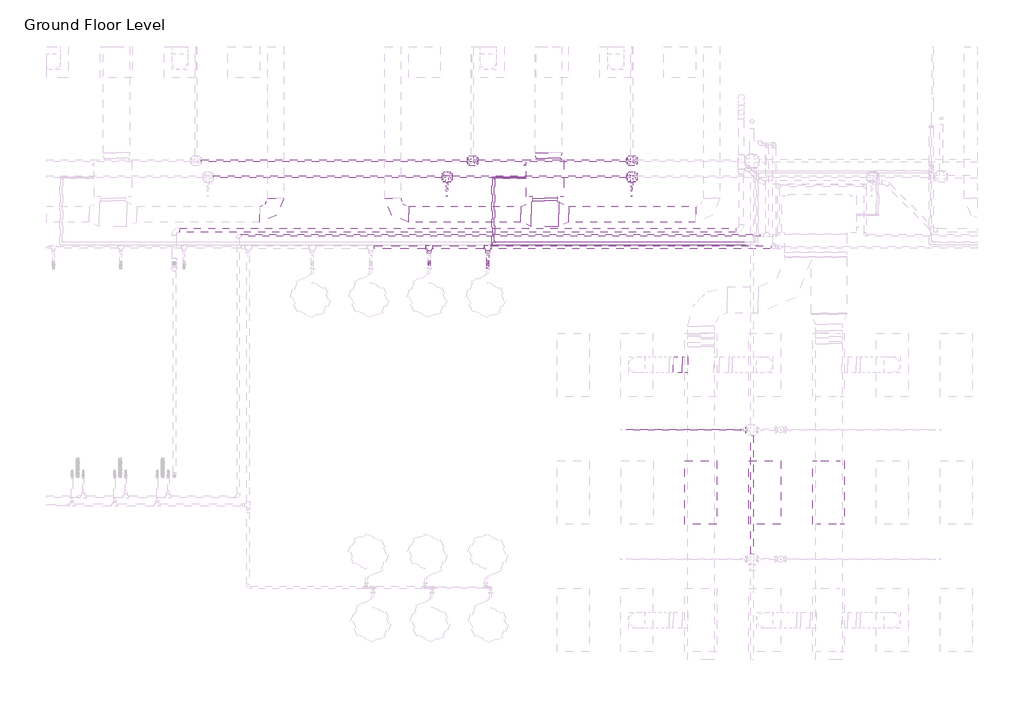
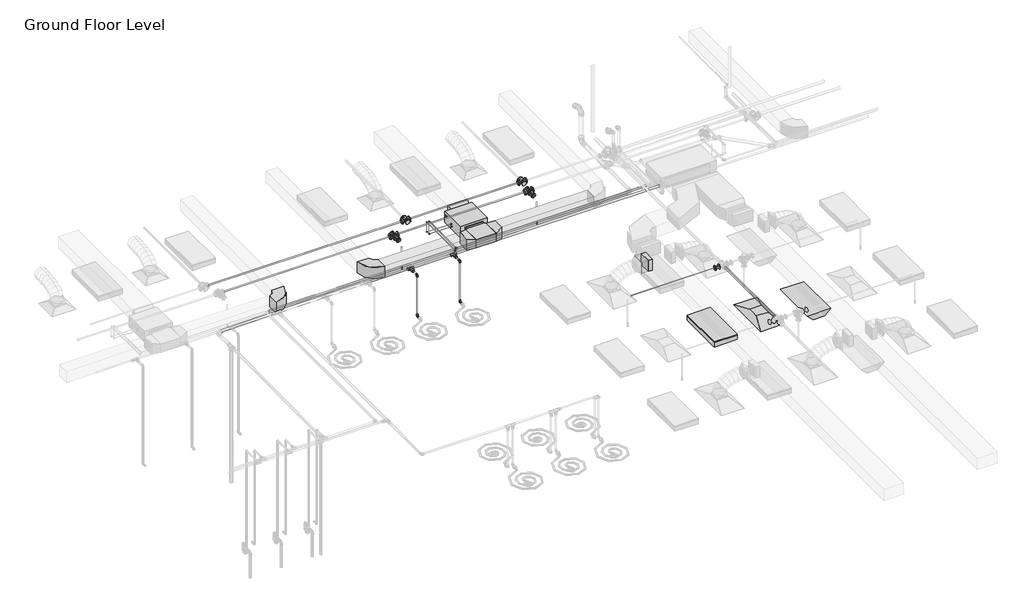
# One storey, part 49 of 75: 27 pipe segments, 21 pipe fittings, 9 duct fittings, 4 duct segments, 2 fire suppression terminals, 2 light fixtures, 1 air terminal, 1 proxy.
"""IFC4 building model written with IfcOpenShell, lengths in millimetres."""

from ifc_helpers import new_model, si_unit, point, frame, frame_2d, origin, place, context, project, spatial, polyline, circle_curve, trimmed, segment, composite_curve, outline, extrude, transform, mapped, element, save
from components import m_return_diffuser_1200x600_1200_x_600_face_300_x_300_d1983ef6, fcu_daikin_iu_bad131e0, m_rectangular_elbow_radius_1_w_618da153, m_rectangular_takeoff_standard_2be5eba1, m_rectangular_tee_standard_fa4de0e8, m_rectangular_transition_angle_45_degree_5a11b24e, m_rectangular_transition_angle_45_degree_27e6000f, m_rectangular_transition_angle_45_degree_1c32c0a1, m_rectangular_transition_angle_45_degree_6e5ad010, m_sprinkler_pendent_15_mm_pendent_06fcbd8e, m_emergency_recessed_lighting_fixture_600x1200_277_5b10b25d, m_troffer_light_parabolic_rectangular1_0600x1200mm_4_lamp_86473d4a, m_elbow_generic_standard_a088f956, m_elbow_generic_standard_2a704253, m_elbow_generic_standard_6b1a80c6, m_elbow_generic_standard_5542be81, m_reducer_flanged_cs_class_150_standard_ccf252ad, m_reducer_flanged_cs_class_150_standard_83138b42, m_tee_generic_standard_5b2ed4d4, m_tee_generic_standard_25a94648, m_tee_round_base_flanged_cs_class_150_standard_7e5987a1, standard_517a5a8d, standard_cd25fed3, standard_f1337950

model = new_model("IFC4")

# Units and contexts
model_context = context("Model", 3, world=origin())
ifc_project = project(units=[si_unit("LENGTHUNIT", "METRE", prefix="MILLI")], contexts=[model_context])

# Site, building, storey
site = spatial("IfcSite", under=ifc_project)
building = spatial("IfcBuilding", under=site)
storey = spatial("IfcBuildingStorey", under=building, Name="Ground Floor Level", Elevation=900.0)

# Air terminal
placement = place(None, origin())
m_return_diffuser_1200x600_1200_x_600_face_300_x_300_shape = m_return_diffuser_1200x600_1200_x_600_face_300_x_300_d1983ef6(model_context)
element("IfcAirTerminal", 1, ObjectType="M_Return Diffuser 1200x600 : 1200 x 600 Face 300 x 300 Connection", at=placement, inside=storey, context=model_context, shape_type="MappedRepresentation", body=[
    mapped(m_return_diffuser_1200x600_1200_x_600_face_300_x_300_shape, transform((-5737.2327605, 8835.2153534, 3650.0), x_axis=(0.0, 1.0, 0.0), y_axis=(-1.0, 0.0, 0.0), z_axis=(0.0, 0.0, 1.0))),
])

# Proxy
fcu_daikin_iu_shape = fcu_daikin_iu_bad131e0(model_context)
element("IfcBuildingElementProxy", 2, Name="FCU-DAIKIN IU : 4.5kW, 230V/50Hz/1Ph", ObjectType="FCU-DAIKIN IU : 4.5kW, 230V/50Hz/1Ph", at=placement, inside=storey, context=model_context, shape_type="MappedRepresentation", body=[
    mapped(fcu_daikin_iu_shape, transform((-9872.2327605, 14745.2153534, 3934.0872564), x_axis=(-1.0, 0.0, 0.0), y_axis=(0.0, -1.0, 0.0), z_axis=(0.0, 0.0, 1.0))),
])

# Duct fittings
m_rectangular_elbow_radius_1_w_shape = m_rectangular_elbow_radius_1_w_618da153(model_context)
element("IfcDuctFitting", 3, ObjectType="M_Rectangular Elbow - Radius : 1 W", at=placement, inside=storey, context=model_context, shape_type="MappedRepresentation", body=[
    mapped(m_rectangular_elbow_radius_1_w_shape, transform((-14937.2327605, 14069.8153534, 4075.2881511), x_axis=(1.0, 0.0, 0.0), y_axis=(0.0, 1.0, 0.0), z_axis=(0.0, 0.0, 1.0))),
])
element("IfcDuctFitting", 4, ObjectType="M_Rectangular Elbow - Radius : 1 W", at=placement, inside=storey, context=model_context, shape_type="MappedRepresentation", body=[
    mapped(m_rectangular_elbow_radius_1_w_shape, transform((-12737.2327605, 14069.8153534, 4075.2872564), x_axis=(0.0, -1.0, 0.0), y_axis=(1.0, 0.0, 0.0), z_axis=(0.0, 0.0, 1.0))),
])
m_rectangular_takeoff_standard_shape = m_rectangular_takeoff_standard_2be5eba1(model_context)
element("IfcDuctFitting", 5, ObjectType="M_Rectangular Takeoff : Standard", at=placement, inside=storey, context=model_context, shape_type="MappedRepresentation", body=[
    mapped(m_rectangular_takeoff_standard_shape, transform((-7189.6910789, 11235.2153534, 4150.0), x_axis=(-1.0, 0.0, 0.0), y_axis=(0.0, 1.0, 0.0), z_axis=(0.0, 0.0, -1.0))),
])
m_rectangular_tee_standard_shape = m_rectangular_tee_standard_fa4de0e8(model_context)
element("IfcDuctFitting", 6, ObjectType="M_Rectangular Tee : Standard", at=placement, inside=storey, context=model_context, shape_type="MappedRepresentation", body=[
    mapped(m_rectangular_tee_standard_shape, transform((-9872.2327605, 14069.8153534, 4075.2872564), x_axis=(-1.0, 0.0, 0.0), y_axis=(0.0, -1.0, 0.0), z_axis=(0.0, 0.0, 1.0))),
])
m_rectangular_transition_angle_45_degree_shape = m_rectangular_transition_angle_45_degree_5a11b24e(model_context)
element("IfcDuctFitting", 7, ObjectType="M_Rectangular Transition - Angle : 45 Degree", at=placement, inside=storey, context=model_context, shape_type="MappedRepresentation", body=[
    mapped(m_rectangular_transition_angle_45_degree_shape, transform((-9808.7327605, 15120.6153534, 4099.9997564), x_axis=(0.0, 1.0, 0.0), y_axis=(-1.0, 0.0, 0.0), z_axis=(0.0, 0.0, 1.0))),
])
m_rectangular_transition_angle_45_degree_2_shape = m_rectangular_transition_angle_45_degree_27e6000f(model_context)
element("IfcDuctFitting", 8, ObjectType="M_Rectangular Transition - Angle : 45 Degree", at=placement, inside=storey, context=model_context, shape_type="MappedRepresentation", body=[
    mapped(m_rectangular_transition_angle_45_degree_2_shape, transform((-9872.2327605, 14369.8153534, 4075.2872564), x_axis=(0.0, -1.0, 0.0), y_axis=(1.0, 0.0, 0.0), z_axis=(0.0, 0.0, 1.0))),
])
m_rectangular_transition_angle_45_degree_3_shape = m_rectangular_transition_angle_45_degree_1c32c0a1(model_context)
element("IfcDuctFitting", 9, ObjectType="M_Rectangular Transition - Angle : 45 Degree", at=placement, inside=storey, context=model_context, shape_type="MappedRepresentation", body=[
    mapped(m_rectangular_transition_angle_45_degree_3_shape, transform((-9872.2327605, 14326.1149854, 4075.2872564), x_axis=(0.0, -1.0, 0.0), y_axis=(1.0, 0.0, 0.0), z_axis=(0.0, 0.0, 1.0))),
])
m_rectangular_transition_angle_45_degree_4_shape = m_rectangular_transition_angle_45_degree_6e5ad010(model_context)
element("IfcDuctFitting", 10, ObjectType="M_Rectangular Transition - Angle : 45 Degree", at=placement, inside=storey, context=model_context, shape_type="MappedRepresentation", body=[
    mapped(m_rectangular_transition_angle_45_degree_4_shape, transform((-10128.1702605, 14069.8153534, 4075.2872564), x_axis=(-1.0, 0.0, 0.0), y_axis=(0.0, -1.0, 0.0), z_axis=(0.0, 0.0, 1.0))),
])
element("IfcDuctFitting", 11, ObjectType="M_Rectangular Transition - Angle : 45 Degree", at=placement, inside=storey, context=model_context, shape_type="MappedRepresentation", body=[
    mapped(m_rectangular_transition_angle_45_degree_4_shape, transform((-9616.2952605, 14069.8153534, 4075.2872564), x_axis=(1.0, 0.0, 0.0), y_axis=(0.0, 1.0, 0.0), z_axis=(0.0, 0.0, 1.0))),
])

# Duct segments
element("IfcDuctSegment", 12, ObjectType="Radius Elbows / Taps", at=placement, inside=storey, context=model_context, shape_type="SweptSolid", body=[
    extrude(outline(polyline([(-9420.8948503, 13919.8153534), (-9420.8948503, 14219.8153534), (-7037.2327605, 14219.8153534), (-7037.2327605, 13919.8153534), (-9420.8948503, 13919.8153534)])), frame((0.0, 0.0, 3925.2872564), z_axis=(0.0, 0.0, 1.0), x_axis=(1.0, 0.0, 0.0)), (0.0, 0.0, 1.0), 300.0),
])
element("IfcDuctSegment", 13, ObjectType="Radius Elbows / Taps", at=placement, inside=storey, context=model_context, shape_type="SweptSolid", body=[
    extrude(outline(polyline([(-12437.2327605, 13919.8153534), (-12437.2327605, 14219.8153534), (-10323.5706707, 14219.8153534), (-10323.5706707, 13919.8153534), (-12437.2327605, 13919.8153534)])), frame((0.0, 0.0, 3925.2872564), z_axis=(0.0, 0.0, 1.0), x_axis=(1.0, 0.0, 0.0)), (0.0, 0.0, 1.0), 300.0),
])
element("IfcDuctSegment", 14, ObjectType="Radius Elbows / Taps", at=placement, inside=storey, context=model_context, shape_type="SweptSolid", body=[
    extrude(outline(polyline([(-10103.2327605, 14369.4532214), (-9641.2327605, 14369.4532214), (-9641.2327605, 14326.1149854), (-10103.2327605, 14326.1149854), (-10103.2327605, 14369.4532214)])), frame((0.0, 0.0, 3968.2872564), z_axis=(0.0, 0.0, 1.0), x_axis=(1.0, 0.0, 0.0)), (0.0, 0.0, 1.0), 214.0),
])
element("IfcDuctSegment", 15, ObjectType="Radius Elbows / Taps", at=placement, inside=storey, context=model_context, shape_type="SweptSolid", body=[
    extrude(outline(polyline([(-7291.2910789, 11385.2153534), (-7291.2910789, 11085.2153534), (-7461.2487616, 11085.2153534), (-7461.2487616, 11385.2153534), (-7291.2910789, 11385.2153534)])), frame((0.0, 0.0, 4000.0), z_axis=(0.0, 0.0, 1.0), x_axis=(1.0, 0.0, 0.0)), (0.0, 0.0, 1.0), 300.0),
])

# Fire suppression terminals
m_sprinkler_pendent_15_mm_pendent_shape = m_sprinkler_pendent_15_mm_pendent_06fcbd8e(model_context)
element("IfcFireSuppressionTerminal", 16, ObjectType="M_Sprinkler - Pendent : 15 mm Pendent", at=placement, inside=storey, context=model_context, shape_type="MappedRepresentation", body=[
    mapped(m_sprinkler_pendent_15_mm_pendent_shape, transform((-11714.286216, 14412.7243649, 3650.0), x_axis=(1.0, 0.0, 0.0), y_axis=(0.0, 1.0, 0.0), z_axis=(0.0, 0.0, 1.0))),
])
element("IfcFireSuppressionTerminal", 17, ObjectType="M_Sprinkler - Pendent : 15 mm Pendent", at=placement, inside=storey, context=model_context, shape_type="MappedRepresentation", body=[
    mapped(m_sprinkler_pendent_15_mm_pendent_shape, transform((-8237.2327605, 14412.7243649, 3650.0), x_axis=(1.0, 0.0, 0.0), y_axis=(0.0, 1.0, 0.0), z_axis=(0.0, 0.0, 1.0))),
])

# Light fixtures
m_emergency_recessed_lighting_fixture_600x1200_277_shape = m_emergency_recessed_lighting_fixture_600x1200_277_5b10b25d(model_context)
element("IfcLightFixture", 18, ObjectType="M_Emergency Recessed Lighting Fixture : 600x1200 - 277", at=placement, inside=storey, context=model_context, shape_type="MappedRepresentation", body=[
    mapped(m_emergency_recessed_lighting_fixture_600x1200_277_shape, transform((-4837.2327605, 8235.2153534, 3650.0), x_axis=(0.0, 1.0, 0.0), y_axis=(-1.0, 0.0, 0.0), z_axis=(0.0, 0.0, 1.0))),
])
m_troffer_light_parabolic_rectangular1_0600x1200mm_4_lamp_shape = m_troffer_light_parabolic_rectangular1_0600x1200mm_4_lamp_86473d4a(model_context)
element("IfcLightFixture", 19, ObjectType="M_Troffer Light - Parabolic Rectangular1 : 0600x1200mm(4 Lamp) - 277V 2", at=placement, inside=storey, context=model_context, shape_type="MappedRepresentation", body=[
    mapped(m_troffer_light_parabolic_rectangular1_0600x1200mm_4_lamp_shape, transform((-6996.6986926, 8853.918855, 3650.0), x_axis=(0.0, 1.0, 0.0), y_axis=(-1.0, 0.0, 0.0), z_axis=(0.0, 0.0, 1.0))),
])

# Pipe fittings
m_elbow_generic_standard_shape = m_elbow_generic_standard_a088f956(model_context)
element("IfcPipeFitting", 20, ObjectType="M_Elbow - Generic : Standard", at=placement, inside=storey, context=model_context, shape_type="MappedRepresentation", body=[
    mapped(m_elbow_generic_standard_shape, transform((-10820.3327605, 14745.2153534, 4380.0), x_axis=(0.0, 0.0, 1.0), y_axis=(0.0, -1.0, 0.0), z_axis=(1.0, 0.0, 0.0))),
])
m_elbow_generic_standard_2_shape = m_elbow_generic_standard_2a704253(model_context)
element("IfcPipeFitting", 21, ObjectType="M_Elbow - Generic : Standard", at=placement, inside=storey, context=model_context, shape_type="MappedRepresentation", body=[
    mapped(m_elbow_generic_standard_2_shape, transform((-10870.0192947, 14770.2153534, 4365.0), x_axis=(0.0, 0.0, 1.0), y_axis=(0.0, -1.0, 0.0), z_axis=(1.0, 0.0, 0.0))),
])
m_elbow_generic_standard_3_shape = m_elbow_generic_standard_6b1a80c6(model_context)
element("IfcPipeFitting", 22, ObjectType="M_Elbow - Generic : Standard", at=placement, inside=storey, context=model_context, shape_type="MappedRepresentation", body=[
    mapped(m_elbow_generic_standard_3_shape, transform((-10820.3359808, 14745.2153534, 4034.0996164), x_axis=(-0.9999999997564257, 0.0, 2.2071440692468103e-05), y_axis=(2.2071440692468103e-05, 0.0, 0.9999999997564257), z_axis=(0.0, 1.0, 0.0))),
])
m_elbow_generic_standard_4_shape = m_elbow_generic_standard_5542be81(model_context)
element("IfcPipeFitting", 23, ObjectType="M_Elbow - Generic : Standard", at=placement, inside=storey, context=model_context, shape_type="MappedRepresentation", body=[
    mapped(m_elbow_generic_standard_4_shape, transform((-10870.0222525, 14770.2153534, 4084.8996164), x_axis=(0.0, 0.0, -1.0), y_axis=(1.0, 0.0, 0.0), z_axis=(0.0, -1.0, 0.0))),
])
m_reducer_flanged_cs_class_150_standard_shape = m_reducer_flanged_cs_class_150_standard_ccf252ad(model_context)
element("IfcPipeFitting", 24, ObjectType="M_Reducer - Flanged - CS - Class 150 : Standard", at=placement, inside=storey, context=model_context, shape_type="MappedRepresentation", body=[
    mapped(m_reducer_flanged_cs_class_150_standard_shape, transform((-11714.286216, 14672.759591, 4291.0943441), x_axis=(0.0, -1.0, 0.0), y_axis=(1.0, 0.0, 0.0), z_axis=(0.0, 0.0, 1.0))),
])
element("IfcPipeFitting", 25, ObjectType="M_Reducer - Flanged - CS - Class 150 : Standard", at=placement, inside=storey, context=model_context, shape_type="MappedRepresentation", body=[
    mapped(m_reducer_flanged_cs_class_150_standard_shape, transform((-8237.2327605, 14672.759591, 4291.0943441), x_axis=(0.0, -1.0, 0.0), y_axis=(1.0, 0.0, 0.0), z_axis=(0.0, 0.0, 1.0))),
])
m_reducer_flanged_cs_class_150_standard_2_shape = m_reducer_flanged_cs_class_150_standard_83138b42(model_context)
element("IfcPipeFitting", 26, ObjectType="M_Reducer - Flanged - CS - Class 150 : Standard", at=placement, inside=storey, context=model_context, shape_type="MappedRepresentation", body=[
    mapped(m_reducer_flanged_cs_class_150_standard_2_shape, transform((-6080.130502, 10013.008259, 4360.0), x_axis=(-1.0, 0.0, 0.0), y_axis=(0.0, 0.0, -1.0), z_axis=(0.0, -1.0, 0.0))),
])
m_tee_generic_standard_shape = m_tee_generic_standard_5b2ed4d4(model_context)
element("IfcPipeFitting", 27, ObjectType="M_Tee - Generic : Standard", at=placement, inside=storey, context=model_context, shape_type="MappedRepresentation", body=[
    mapped(m_tee_generic_standard_shape, transform((-10820.3327605, 13545.2153534, 4380.0), x_axis=(1.0, 0.0, 0.0), y_axis=(0.0, -1.0, 0.0), z_axis=(0.0, 0.0, -1.0))),
])
m_tee_generic_standard_2_shape = m_tee_generic_standard_25a94648(model_context)
element("IfcPipeFitting", 28, ObjectType="M_Tee - Generic : Standard", at=placement, inside=storey, context=model_context, shape_type="MappedRepresentation", body=[
    mapped(m_tee_generic_standard_2_shape, transform((-10870.0192947, 13494.0185138, 4365.0), x_axis=(-1.0, 0.0, 0.0), y_axis=(0.0, -1.0, 0.0), z_axis=(0.0, 0.0, 1.0))),
])
m_tee_round_base_flanged_cs_class_150_standard_shape = m_tee_round_base_flanged_cs_class_150_standard_7e5987a1(model_context)
element("IfcPipeFitting", 29, ObjectType="M_Tee Round Base - Flanged - CS - Class 150 : Standard", at=placement, inside=storey, context=model_context, shape_type="MappedRepresentation", body=[
    mapped(m_tee_round_base_flanged_cs_class_150_standard_shape, transform((-11714.286216, 14773.4681847, 4291.0943441), x_axis=(-1.0, 0.0, 0.0), y_axis=(0.0, 1.0, 0.0), z_axis=(0.0, 0.0, -1.0))),
])
element("IfcPipeFitting", 30, ObjectType="M_Tee Round Base - Flanged - CS - Class 150 : Standard", at=placement, inside=storey, context=model_context, shape_type="MappedRepresentation", body=[
    mapped(m_tee_round_base_flanged_cs_class_150_standard_shape, transform((-8237.2327605, 14773.4681847, 4291.0943441), x_axis=(-1.0, 0.0, 0.0), y_axis=(0.0, 1.0, 0.0), z_axis=(0.0, 0.0, -1.0))),
])
element("IfcPipeFitting", 31, ObjectType="M_Tee Round Base - Flanged - CS - Class 150 : Standard", at=placement, inside=storey, context=model_context, shape_type="MappedRepresentation", body=[
    mapped(m_tee_round_base_flanged_cs_class_150_standard_shape, transform((-11237.2327605, 15073.2009828, 4360.0), x_axis=(-1.0, 0.0, 0.0), y_axis=(0.0, -1.0, 0.0), z_axis=(0.0, 0.0, 1.0))),
])
element("IfcPipeFitting", 32, ObjectType="M_Tee Round Base - Flanged - CS - Class 150 : Standard", at=placement, inside=storey, context=model_context, shape_type="MappedRepresentation", body=[
    mapped(m_tee_round_base_flanged_cs_class_150_standard_shape, transform((-8237.2327605, 15073.2009828, 4360.0), x_axis=(-1.0, 0.0, 0.0), y_axis=(0.0, -1.0, 0.0), z_axis=(0.0, 0.0, 1.0))),
])
standard_shape = standard_517a5a8d(model_context)
element("IfcPipeFitting", 33, ObjectType="M_Elbow - CPVC - Sch 40 : Standard", at=placement, inside=storey, context=model_context, shape_type="MappedRepresentation", body=[
    mapped(standard_shape, transform((-12047.2327605, 13150.8347997, 4315.0), x_axis=(0.0, 0.0, 1.0), y_axis=(0.0, 1.0, 0.0), z_axis=(-1.0, 0.0, 0.0))),
])
element("IfcPipeFitting", 34, ObjectType="M_Elbow - CPVC - Sch 40 : Standard", at=placement, inside=storey, context=model_context, shape_type="MappedRepresentation", body=[
    mapped(standard_shape, transform((-10947.2327605, 13150.8347997, 4315.0), x_axis=(0.0, 0.0, 1.0), y_axis=(0.0, 1.0, 0.0), z_axis=(-1.0, 0.0, 0.0))),
])
element("IfcPipeFitting", 35, ObjectType="M_Elbow - CPVC - Sch 40 : Standard", at=placement, inside=storey, context=model_context, shape_type="MappedRepresentation", body=[
    mapped(standard_shape, transform((-12047.2327605, 13150.8347997, 3200.0), x_axis=(0.0, 0.0, -1.0), y_axis=(0.0, -1.0, 0.0), z_axis=(-1.0, 0.0, 0.0))),
])
element("IfcPipeFitting", 36, ObjectType="M_Elbow - CPVC - Sch 40 : Standard", at=placement, inside=storey, context=model_context, shape_type="MappedRepresentation", body=[
    mapped(standard_shape, transform((-10947.2327605, 13150.8347997, 3200.0), x_axis=(0.0, 0.0, -1.0), y_axis=(0.0, -1.0, 0.0), z_axis=(-1.0, 0.0, 0.0))),
])
standard_2_shape = standard_cd25fed3(model_context)
element("IfcPipeFitting", 37, ObjectType="M_Tee - CPVC - Sch 40 : Standard", at=placement, inside=storey, context=model_context, shape_type="MappedRepresentation", body=[
    mapped(standard_2_shape, transform((-12047.2327605, 13449.9865561, 4315.0), x_axis=(-1.0, 0.0, 0.0), y_axis=(0.0, 1.0, 0.0), z_axis=(0.0, 0.0, -1.0))),
])
element("IfcPipeFitting", 38, ObjectType="M_Tee - CPVC - Sch 40 : Standard", at=placement, inside=storey, context=model_context, shape_type="MappedRepresentation", body=[
    mapped(standard_2_shape, transform((-10947.2327605, 13449.9865561, 4315.0), x_axis=(1.0, 0.0, 0.0), y_axis=(0.0, 1.0, 0.0), z_axis=(0.0, 0.0, 1.0))),
])
standard_3_shape = standard_f1337950(model_context)
element("IfcPipeFitting", 39, ObjectType="M_Coupling Reducing - CPVC - Sch 40 : Standard", at=placement, inside=storey, context=model_context, shape_type="MappedRepresentation", body=[
    mapped(standard_3_shape, transform((-12047.2327605, 13383.3115561, 4315.0), x_axis=(0.0, -1.0, 0.0), y_axis=(1.0, 0.0, 0.0), z_axis=(0.0, 0.0, 1.0))),
])
element("IfcPipeFitting", 40, ObjectType="M_Coupling Reducing - CPVC - Sch 40 : Standard", at=placement, inside=storey, context=model_context, shape_type="MappedRepresentation", body=[
    mapped(standard_3_shape, transform((-10947.2327605, 13383.3115561, 4315.0), x_axis=(0.0, -1.0, 0.0), y_axis=(1.0, 0.0, 0.0), z_axis=(0.0, 0.0, 1.0))),
])

# Pipe segments
element("IfcPipeSegment", 41, ObjectType="CPVC", at=placement, inside=storey, context=model_context, shape_type="SweptSolid", body=[
    extrude(outline(composite_curve([segment(trimmed(circle_curve(frame_2d((-12047.2327605, 13150.8347997)), 16.7005), [point((-12063.9332605, 13150.8347997))], [point((-12047.2327605, 13167.5352997))], False, "CARTESIAN"), True, "CONTINUOUS"), segment(trimmed(circle_curve(frame_2d((-12047.2327605, 13150.8347997)), 16.7005), [point((-12047.2327605, 13167.5352997))], [point((-12030.5322605, 13150.8347997))], False, "CARTESIAN"), True, "CONTINUOUS"), segment(trimmed(circle_curve(frame_2d((-12047.2327605, 13150.8347997)), 16.7005), [point((-12030.5322605, 13150.8347997))], [point((-12047.2327605, 13134.1342997))], False, "CARTESIAN"), True, "CONTINUOUS"), segment(trimmed(circle_curve(frame_2d((-12047.2327605, 13150.8347997)), 16.7005), [point((-12047.2327605, 13134.1342997))], [point((-12063.9332605, 13150.8347997))], False, "CARTESIAN"), True, "CONTINUOUS")], self_intersect=False)), frame((0.0, 0.0, 3243.26255), z_axis=(0.0, 0.0, 1.0), x_axis=(1.0, 0.0, 0.0)), (0.0, 0.0, 1.0), 1028.4749),
])
element("IfcPipeSegment", 42, ObjectType="CPVC", at=placement, inside=storey, context=model_context, shape_type="SweptSolid", body=[
    extrude(outline(composite_curve([segment(trimmed(circle_curve(frame_2d((3200.0, -10947.2327605)), 16.7005), [point((3200.0, -10963.9332605))], [point((3183.2995, -10947.2327605))], False, "CARTESIAN"), True, "CONTINUOUS"), segment(trimmed(circle_curve(frame_2d((3200.0, -10947.2327605)), 16.7005), [point((3183.2995, -10947.2327605))], [point((3200.0, -10930.5322605))], False, "CARTESIAN"), True, "CONTINUOUS"), segment(trimmed(circle_curve(frame_2d((3200.0, -10947.2327605)), 16.7005), [point((3200.0, -10930.5322605))], [point((3216.7005, -10947.2327605))], False, "CARTESIAN"), True, "CONTINUOUS"), segment(trimmed(circle_curve(frame_2d((3200.0, -10947.2327605)), 16.7005), [point((3216.7005, -10947.2327605))], [point((3200.0, -10963.9332605))], False, "CARTESIAN"), True, "CONTINUOUS")], self_intersect=False)), frame((0.0, 13056.8347997, 0.0), z_axis=(0.0, 1.0, 0.0), x_axis=(0.0, 0.0, 1.0)), (0.0, 0.0, 1.0), 50.73745),
])
element("IfcPipeSegment", 43, ObjectType="CPVC", at=placement, inside=storey, context=model_context, shape_type="SweptSolid", body=[
    extrude(outline(composite_curve([segment(trimmed(circle_curve(frame_2d((4315.0, -10947.2327605)), 16.7005), [point((4315.0, -10930.5322605))], [point((4331.7005, -10947.2327605))], False, "CARTESIAN"), True, "CONTINUOUS"), segment(trimmed(circle_curve(frame_2d((4315.0, -10947.2327605)), 16.7005), [point((4331.7005, -10947.2327605))], [point((4315.0, -10963.9332605))], False, "CARTESIAN"), True, "CONTINUOUS"), segment(trimmed(circle_curve(frame_2d((4315.0, -10947.2327605)), 16.7005), [point((4315.0, -10963.9332605))], [point((4298.2995, -10947.2327605))], False, "CARTESIAN"), True, "CONTINUOUS"), segment(trimmed(circle_curve(frame_2d((4315.0, -10947.2327605)), 16.7005), [point((4298.2995, -10947.2327605))], [point((4315.0, -10930.5322605))], False, "CARTESIAN"), True, "CONTINUOUS")], self_intersect=False)), frame((0.0, 13194.0973497, 0.0), z_axis=(0.0, 1.0, 0.0), x_axis=(0.0, 0.0, 1.0)), (0.0, 0.0, 1.0), 109.4153315),
])
element("IfcPipeSegment", 44, ObjectType="CPVC", at=placement, inside=storey, context=model_context, shape_type="SweptSolid", body=[
    extrude(outline(composite_curve([segment(trimmed(circle_curve(frame_2d((-10947.2327605, 13150.8347997)), 16.7005), [point((-10963.9332605, 13150.8347997))], [point((-10947.2327605, 13167.5352997))], False, "CARTESIAN"), True, "CONTINUOUS"), segment(trimmed(circle_curve(frame_2d((-10947.2327605, 13150.8347997)), 16.7005), [point((-10947.2327605, 13167.5352997))], [point((-10930.5322605, 13150.8347997))], False, "CARTESIAN"), True, "CONTINUOUS"), segment(trimmed(circle_curve(frame_2d((-10947.2327605, 13150.8347997)), 16.7005), [point((-10930.5322605, 13150.8347997))], [point((-10947.2327605, 13134.1342997))], False, "CARTESIAN"), True, "CONTINUOUS"), segment(trimmed(circle_curve(frame_2d((-10947.2327605, 13150.8347997)), 16.7005), [point((-10947.2327605, 13134.1342997))], [point((-10963.9332605, 13150.8347997))], False, "CARTESIAN"), True, "CONTINUOUS")], self_intersect=False)), frame((0.0, 0.0, 3243.26255), z_axis=(0.0, 0.0, 1.0), x_axis=(1.0, 0.0, 0.0)), (0.0, 0.0, 1.0), 1028.4749),
])
element("IfcPipeSegment", 45, ObjectType="CPVC", at=placement, inside=storey, context=model_context, shape_type="SweptSolid", body=[
    extrude(outline(composite_curve([segment(trimmed(circle_curve(frame_2d((13449.9865561, 4315.0)), 30.1625), [point((13419.8240561, 4315.0))], [point((13449.9865561, 4345.1625))], False, "CARTESIAN"), True, "CONTINUOUS"), segment(trimmed(circle_curve(frame_2d((13449.9865561, 4315.0)), 30.1625), [point((13449.9865561, 4345.1625))], [point((13480.1490561, 4315.0))], False, "CARTESIAN"), True, "CONTINUOUS"), segment(trimmed(circle_curve(frame_2d((13449.9865561, 4315.0)), 30.1625), [point((13480.1490561, 4315.0))], [point((13449.9865561, 4284.8375))], False, "CARTESIAN"), True, "CONTINUOUS"), segment(trimmed(circle_curve(frame_2d((13449.9865561, 4315.0)), 30.1625), [point((13449.9865561, 4284.8375))], [point((13419.8240561, 4315.0))], False, "CARTESIAN"), True, "CONTINUOUS")], self_intersect=False)), frame((-13080.5577605, 0.0, 0.0), z_axis=(1.0, 0.0, 0.0), x_axis=(0.0, 1.0, 0.0)), (0.0, 0.0, 1.0), 966.65),
])
element("IfcPipeSegment", 46, ObjectType="CPVC", at=placement, inside=storey, context=model_context, shape_type="SweptSolid", body=[
    extrude(outline(composite_curve([segment(trimmed(circle_curve(frame_2d((13449.9865561, 4315.0)), 30.1625), [point((13419.8240561, 4315.0))], [point((13449.9865561, 4345.1625))], False, "CARTESIAN"), True, "CONTINUOUS"), segment(trimmed(circle_curve(frame_2d((13449.9865561, 4315.0)), 30.1625), [point((13449.9865561, 4345.1625))], [point((13480.1490561, 4315.0))], False, "CARTESIAN"), True, "CONTINUOUS"), segment(trimmed(circle_curve(frame_2d((13449.9865561, 4315.0)), 30.1625), [point((13480.1490561, 4315.0))], [point((13449.9865561, 4284.8375))], False, "CARTESIAN"), True, "CONTINUOUS"), segment(trimmed(circle_curve(frame_2d((13449.9865561, 4315.0)), 30.1625), [point((13449.9865561, 4284.8375))], [point((13419.8240561, 4315.0))], False, "CARTESIAN"), True, "CONTINUOUS")], self_intersect=False)), frame((-11980.5577605, 0.0, 0.0), z_axis=(1.0, 0.0, 0.0), x_axis=(0.0, 1.0, 0.0)), (0.0, 0.0, 1.0), 966.65),
])
element("IfcPipeSegment", 47, ObjectType="CPVC", at=placement, inside=storey, context=model_context, shape_type="SweptSolid", body=[
    extrude(outline(composite_curve([segment(trimmed(circle_curve(frame_2d((13675.2153534, 4250.0)), 21.082), [point((13654.1333534, 4250.0))], [point((13675.2153534, 4271.082))], False, "CARTESIAN"), True, "CONTINUOUS"), segment(trimmed(circle_curve(frame_2d((13675.2153534, 4250.0)), 21.082), [point((13675.2153534, 4271.082))], [point((13696.2973534, 4250.0))], False, "CARTESIAN"), True, "CONTINUOUS"), segment(trimmed(circle_curve(frame_2d((13675.2153534, 4250.0)), 21.082), [point((13696.2973534, 4250.0))], [point((13675.2153534, 4228.918))], False, "CARTESIAN"), True, "CONTINUOUS"), segment(trimmed(circle_curve(frame_2d((13675.2153534, 4250.0)), 21.082), [point((13675.2153534, 4228.918))], [point((13654.1333534, 4250.0))], False, "CARTESIAN"), True, "CONTINUOUS")], self_intersect=False)), frame((-15584.8736174, 0.0, 0.0), z_axis=(1.0, 0.0, 0.0), x_axis=(0.0, 1.0, 0.0)), (0.0, 0.0, 1.0), 9750.0786527),
])
element("IfcPipeSegment", 48, ObjectType="CPVC", at=placement, inside=storey, context=model_context, shape_type="SweptSolid", body=[
    extrude(outline(composite_curve([segment(trimmed(circle_curve(frame_2d((13449.9865561, 4315.0)), 30.1625), [point((13419.8240561, 4315.0))], [point((13449.9865561, 4345.1625))], False, "CARTESIAN"), True, "CONTINUOUS"), segment(trimmed(circle_curve(frame_2d((13449.9865561, 4315.0)), 30.1625), [point((13449.9865561, 4345.1625))], [point((13480.1490561, 4315.0))], False, "CARTESIAN"), True, "CONTINUOUS"), segment(trimmed(circle_curve(frame_2d((13449.9865561, 4315.0)), 30.1625), [point((13480.1490561, 4315.0))], [point((13449.9865561, 4284.8375))], False, "CARTESIAN"), True, "CONTINUOUS"), segment(trimmed(circle_curve(frame_2d((13449.9865561, 4315.0)), 30.1625), [point((13449.9865561, 4284.8375))], [point((13419.8240561, 4315.0))], False, "CARTESIAN"), True, "CONTINUOUS")], self_intersect=False)), frame((-10880.5577605, 0.0, 0.0), z_axis=(1.0, 0.0, 0.0), x_axis=(0.0, 1.0, 0.0)), (0.0, 0.0, 1.0), 5253.0113849),
])
element("IfcPipeSegment", 49, ObjectType="Copper", at=placement, inside=storey, context=model_context, shape_type="SweptSolid", body=[
    extrude(outline(composite_curve([segment(trimmed(circle_curve(frame_2d((0.0, -3.35)), 3.35), [point((-3.35, -3.35))], [point((0.0, 0.0))], False, "CARTESIAN"), True, "CONTINUOUS"), segment(trimmed(circle_curve(frame_2d((0.0, -3.35)), 3.35), [point((0.0, 0.0))], [point((3.35, -3.35))], False, "CARTESIAN"), True, "CONTINUOUS"), segment(trimmed(circle_curve(frame_2d((0.0, -3.35)), 3.35), [point((3.35, -3.35))], [point((0.0, -6.7))], False, "CARTESIAN"), True, "CONTINUOUS"), segment(trimmed(circle_curve(frame_2d((0.0, -3.35)), 3.35), [point((0.0, -6.7))], [point((-3.35, -3.35))], False, "CARTESIAN"), True, "CONTINUOUS")], self_intersect=False)), frame((-10260.3328284, 14770.2153534, 4081.5372564), z_axis=(-0.9999999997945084, 0.0, 2.0272724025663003e-05), x_axis=(0.0, 1.0, 0.0)), (0.0, 0.0, 1.0), 598.5522179),
])
element("IfcPipeSegment", 50, ObjectType="Copper", at=placement, inside=storey, context=model_context, shape_type="SweptSolid", body=[
    extrude(outline(composite_curve([segment(trimmed(circle_curve(frame_2d((4365.0, -10870.0192947)), 3.35), [point((4365.0, -10873.3692947))], [point((4361.65, -10870.0192947))], False, "CARTESIAN"), True, "CONTINUOUS"), segment(trimmed(circle_curve(frame_2d((4365.0, -10870.0192947)), 3.35), [point((4361.65, -10870.0192947))], [point((4365.0, -10866.6692947))], False, "CARTESIAN"), True, "CONTINUOUS"), segment(trimmed(circle_curve(frame_2d((4365.0, -10870.0192947)), 3.35), [point((4365.0, -10866.6692947))], [point((4368.35, -10870.0192947))], False, "CARTESIAN"), True, "CONTINUOUS"), segment(trimmed(circle_curve(frame_2d((4365.0, -10870.0192947)), 3.35), [point((4368.35, -10870.0192947))], [point((4365.0, -10873.3692947))], False, "CARTESIAN"), True, "CONTINUOUS")], self_intersect=False)), frame((0.0, 13511.5060138, 0.0), z_axis=(0.0, 1.0, 0.0), x_axis=(0.0, 0.0, 1.0)), (0.0, 0.0, 1.0), 1247.5718396),
])
element("IfcPipeSegment", 51, ObjectType="Copper", at=placement, inside=storey, context=model_context, shape_type="SweptSolid", body=[
    extrude(outline(composite_curve([segment(trimmed(circle_curve(frame_2d((0.0, -3.35)), 3.35), [point((-3.35, -3.35))], [point((0.0, 0.0))], False, "CARTESIAN"), True, "CONTINUOUS"), segment(trimmed(circle_curve(frame_2d((0.0, -3.35)), 3.35), [point((0.0, 0.0))], [point((3.35, -3.35))], False, "CARTESIAN"), True, "CONTINUOUS"), segment(trimmed(circle_curve(frame_2d((0.0, -3.35)), 3.35), [point((3.35, -3.35))], [point((0.0, -6.7))], False, "CARTESIAN"), True, "CONTINUOUS"), segment(trimmed(circle_curve(frame_2d((0.0, -3.35)), 3.35), [point((0.0, -6.7))], [point((-3.35, -3.35))], False, "CARTESIAN"), True, "CONTINUOUS")], self_intersect=False)), frame((-10870.0222525, 14766.8653534, 4096.0368906), z_axis=(1.1472088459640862e-05, 0.0, 0.9999999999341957), x_axis=(-0.9999999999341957, 0.0, 1.1472088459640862e-05)), (0.0, 0.0, 1.0), 257.8256094),
])
element("IfcPipeSegment", 52, ObjectType="Copper", at=placement, inside=storey, context=model_context, shape_type="SweptSolid", body=[
    extrude(outline(composite_curve([segment(trimmed(circle_curve(frame_2d((0.0, 6.5)), 6.5), [point((-6.5, 6.5))], [point((0.0, 13.0))], False, "CARTESIAN"), True, "CONTINUOUS"), segment(trimmed(circle_curve(frame_2d((0.0, 6.5)), 6.5), [point((0.0, 13.0))], [point((6.5, 6.5))], False, "CARTESIAN"), True, "CONTINUOUS"), segment(trimmed(circle_curve(frame_2d((0.0, 6.5)), 6.5), [point((6.5, 6.5))], [point((0.0, 0.0))], False, "CARTESIAN"), True, "CONTINUOUS"), segment(trimmed(circle_curve(frame_2d((0.0, 6.5)), 6.5), [point((0.0, 0.0))], [point((-6.5, 6.5))], False, "CARTESIAN"), True, "CONTINUOUS")], self_intersect=False)), frame((-10260.332904, 14745.2153534, 4027.5872564), z_axis=(-0.9999999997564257, 0.0, 2.2071440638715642e-05), x_axis=(0.0, -1.0, 0.0)), (0.0, 0.0, 1.0), 545.7160357),
])
element("IfcPipeSegment", 53, ObjectType="Copper", at=placement, inside=storey, context=model_context, shape_type="SweptSolid", body=[
    extrude(outline(composite_curve([segment(trimmed(circle_curve(frame_2d((0.0, 6.5)), 6.5), [point((-6.4999999, 6.5))], [point((0.0, 13.0))], False, "CARTESIAN"), True, "CONTINUOUS"), segment(trimmed(circle_curve(frame_2d((0.0, 6.5)), 6.5), [point((0.0, 13.0))], [point((6.5, 6.5))], False, "CARTESIAN"), True, "CONTINUOUS"), segment(trimmed(circle_curve(frame_2d((0.0, 6.5)), 6.5), [point((6.5, 6.5))], [point((0.0, 0.0))], False, "CARTESIAN"), True, "CONTINUOUS"), segment(trimmed(circle_curve(frame_2d((0.0, 6.5)), 6.5), [point((0.0, 0.0))], [point((-6.4999999, 6.5))], False, "CARTESIAN"), True, "CONTINUOUS")], self_intersect=False)), frame((-10820.3359808, 14738.7153534, 4048.3868011), z_axis=(1.0148033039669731e-05, 0.0, 0.9999999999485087), x_axis=(0.9999999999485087, 0.0, -1.0148033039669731e-05)), (0.0, 0.0, 1.0), 317.3256989),
])
element("IfcPipeSegment", 54, ObjectType="Copper", at=placement, inside=storey, context=model_context, shape_type="SweptSolid", body=[
    extrude(outline(composite_curve([segment(trimmed(circle_curve(frame_2d((4380.0, -10820.3327605)), 6.5), [point((4380.0, -10826.8327605))], [point((4373.5, -10820.3327605))], False, "CARTESIAN"), True, "CONTINUOUS"), segment(trimmed(circle_curve(frame_2d((4380.0, -10820.3327605)), 6.5), [point((4373.5, -10820.3327605))], [point((4380.0, -10813.8327605))], False, "CARTESIAN"), True, "CONTINUOUS"), segment(trimmed(circle_curve(frame_2d((4380.0, -10820.3327605)), 6.5), [point((4380.0, -10813.8327605))], [point((4386.5, -10820.3327605))], False, "CARTESIAN"), True, "CONTINUOUS"), segment(trimmed(circle_curve(frame_2d((4380.0, -10820.3327605)), 6.5), [point((4386.5, -10820.3327605))], [point((4380.0, -10826.8327605))], False, "CARTESIAN"), True, "CONTINUOUS")], self_intersect=False)), frame((0.0, 13565.8528534, 0.0), z_axis=(0.0, 1.0, 0.0), x_axis=(0.0, 0.0, 1.0)), (0.0, 0.0, 1.0), 1165.075),
])
element("IfcPipeSegment", 55, ObjectType="Copper", at=placement, inside=storey, context=model_context, shape_type="SweptSolid", body=[
    extrude(outline(composite_curve([segment(trimmed(circle_curve(frame_2d((13545.2153534, 4380.0)), 6.5), [point((13538.7153534, 4380.0))], [point((13545.2153534, 4386.5))], False, "CARTESIAN"), True, "CONTINUOUS"), segment(trimmed(circle_curve(frame_2d((13545.2153534, 4380.0)), 6.5), [point((13545.2153534, 4386.5))], [point((13551.7153534, 4380.0))], False, "CARTESIAN"), True, "CONTINUOUS"), segment(trimmed(circle_curve(frame_2d((13545.2153534, 4380.0)), 6.5), [point((13551.7153534, 4380.0))], [point((13545.2153534, 4373.5))], False, "CARTESIAN"), True, "CONTINUOUS"), segment(trimmed(circle_curve(frame_2d((13545.2153534, 4380.0)), 6.5), [point((13545.2153534, 4373.5))], [point((13538.7153534, 4380.0))], False, "CARTESIAN"), True, "CONTINUOUS")], self_intersect=False)), frame((-10799.6952605, 0.0, 0.0), z_axis=(1.0, 0.0, 0.0), x_axis=(0.0, 1.0, 0.0)), (0.0, 0.0, 1.0), 4693.638441),
])
element("IfcPipeSegment", 56, ObjectType="Copper", at=placement, inside=storey, context=model_context, shape_type="SweptSolid", body=[
    extrude(outline(composite_curve([segment(trimmed(circle_curve(frame_2d((13494.0185138, 4365.0)), 3.35), [point((13490.6685138, 4365.0))], [point((13494.0185138, 4368.35))], False, "CARTESIAN"), True, "CONTINUOUS"), segment(trimmed(circle_curve(frame_2d((13494.0185138, 4365.0)), 3.35), [point((13494.0185138, 4368.35))], [point((13497.3685138, 4365.0))], False, "CARTESIAN"), True, "CONTINUOUS"), segment(trimmed(circle_curve(frame_2d((13494.0185138, 4365.0)), 3.35), [point((13497.3685138, 4365.0))], [point((13494.0185138, 4361.65))], False, "CARTESIAN"), True, "CONTINUOUS"), segment(trimmed(circle_curve(frame_2d((13494.0185138, 4365.0)), 3.35), [point((13494.0185138, 4361.65))], [point((13490.6685138, 4365.0))], False, "CARTESIAN"), True, "CONTINUOUS")], self_intersect=False)), frame((-10852.5317947, 0.0, 0.0), z_axis=(1.0, 0.0, 0.0), x_axis=(0.0, 1.0, 0.0)), (0.0, 0.0, 1.0), 4777.0536918),
])
element("IfcPipeSegment", 57, ObjectType="PVC - DWV", at=placement, inside=storey, context=model_context, shape_type="SweptSolid", body=[
    extrude(outline(composite_curve([segment(trimmed(circle_curve(frame_2d((0.0, 36.5125)), 36.5125), [point((0.0, 0.0))], [point((-36.5125, 36.5125))], False, "CARTESIAN"), True, "CONTINUOUS"), segment(trimmed(circle_curve(frame_2d((0.0, 36.5125)), 36.5125), [point((-36.5125, 36.5125))], [point((0.0, 73.025))], False, "CARTESIAN"), True, "CONTINUOUS"), segment(trimmed(circle_curve(frame_2d((0.0, 36.5125)), 36.5125), [point((0.0, 73.025))], [point((36.5125, 36.5125))], False, "CARTESIAN"), True, "CONTINUOUS"), segment(trimmed(circle_curve(frame_2d((0.0, 36.5125)), 36.5125), [point((36.5125, 36.5125))], [point((0.0, 0.0))], False, "CARTESIAN"), True, "CONTINUOUS")], self_intersect=False)), frame((-16745.3067515, 13732.2923932, 4051.2669274), z_axis=(0.9999500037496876, 0.0, 0.00999950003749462), x_axis=(0.00999950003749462, 0.0, -0.9999500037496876)), (0.0, 0.0, 1.0), 10467.6468574),
])
element("IfcPipeSegment", 58, ObjectType="Steel flanged", at=placement, inside=storey, context=model_context, shape_type="SweptSolid", body=[
    extrude(outline(composite_curve([segment(trimmed(circle_curve(frame_2d((-11714.286216, 14412.7243649)), 10.668), [point((-11724.954216, 14412.7243649))], [point((-11714.286216, 14423.3923649))], False, "CARTESIAN"), True, "CONTINUOUS"), segment(trimmed(circle_curve(frame_2d((-11714.286216, 14412.7243649)), 10.668), [point((-11714.286216, 14423.3923649))], [point((-11703.618216, 14412.7243649))], False, "CARTESIAN"), True, "CONTINUOUS"), segment(trimmed(circle_curve(frame_2d((-11714.286216, 14412.7243649)), 10.668), [point((-11703.618216, 14412.7243649))], [point((-11714.286216, 14402.0563649))], False, "CARTESIAN"), True, "CONTINUOUS"), segment(trimmed(circle_curve(frame_2d((-11714.286216, 14412.7243649)), 10.668), [point((-11714.286216, 14402.0563649))], [point((-11724.954216, 14412.7243649))], False, "CARTESIAN"), True, "CONTINUOUS")], self_intersect=False)), frame((0.0, 0.0, 3650.0), z_axis=(0.0, 0.0, 1.0), x_axis=(1.0, 0.0, 0.0)), (0.0, 0.0, 1.0), 548.2668816),
])
element("IfcPipeSegment", 59, ObjectType="Steel flanged", at=placement, inside=storey, context=model_context, shape_type="SweptSolid", body=[
    extrude(outline(composite_curve([segment(trimmed(circle_curve(frame_2d((4291.0943441, -11714.286216)), 10.668), [point((4291.0943441, -11703.618216))], [point((4301.7623441, -11714.286216))], False, "CARTESIAN"), True, "CONTINUOUS"), segment(trimmed(circle_curve(frame_2d((4291.0943441, -11714.286216)), 10.668), [point((4301.7623441, -11714.286216))], [point((4291.0943441, -11724.954216))], False, "CARTESIAN"), True, "CONTINUOUS"), segment(trimmed(circle_curve(frame_2d((4291.0943441, -11714.286216)), 10.668), [point((4291.0943441, -11724.954216))], [point((4280.4263441, -11714.286216))], False, "CARTESIAN"), True, "CONTINUOUS"), segment(trimmed(circle_curve(frame_2d((4291.0943441, -11714.286216)), 10.668), [point((4280.4263441, -11714.286216))], [point((4291.0943441, -11703.618216))], False, "CARTESIAN"), True, "CONTINUOUS")], self_intersect=False)), frame((0.0, 14505.7329586, 0.0), z_axis=(0.0, 1.0, 0.0), x_axis=(0.0, 0.0, 1.0)), (0.0, 0.0, 1.0), 53.0266324),
])
element("IfcPipeSegment", 60, ObjectType="Steel flanged", at=placement, inside=storey, context=model_context, shape_type="SweptSolid", body=[
    extrude(outline(composite_curve([segment(trimmed(circle_curve(frame_2d((14773.4681847, 4291.0943441)), 16.7005), [point((14756.7676847, 4291.0943441))], [point((14773.4681847, 4307.7948441))], False, "CARTESIAN"), True, "CONTINUOUS"), segment(trimmed(circle_curve(frame_2d((14773.4681847, 4291.0943441)), 16.7005), [point((14773.4681847, 4307.7948441))], [point((14790.1686847, 4291.0943441))], False, "CARTESIAN"), True, "CONTINUOUS"), segment(trimmed(circle_curve(frame_2d((14773.4681847, 4291.0943441)), 16.7005), [point((14790.1686847, 4291.0943441))], [point((14773.4681847, 4274.3938441))], False, "CARTESIAN"), True, "CONTINUOUS"), segment(trimmed(circle_curve(frame_2d((14773.4681847, 4291.0943441)), 16.7005), [point((14773.4681847, 4274.3938441))], [point((14756.7676847, 4291.0943441))], False, "CARTESIAN"), True, "CONTINUOUS")], self_intersect=False)), frame((-16109.4052562, 0.0, 0.0), z_axis=(1.0, 0.0, 0.0), x_axis=(0.0, 1.0, 0.0)), (0.0, 0.0, 1.0), 4294.4104464),
])
element("IfcPipeSegment", 61, ObjectType="Steel flanged", at=placement, inside=storey, context=model_context, shape_type="SweptSolid", body=[
    extrude(outline(composite_curve([segment(trimmed(circle_curve(frame_2d((-8237.2327605, 14412.7243649)), 10.668), [point((-8247.9007605, 14412.7243649))], [point((-8237.2327605, 14423.3923649))], False, "CARTESIAN"), True, "CONTINUOUS"), segment(trimmed(circle_curve(frame_2d((-8237.2327605, 14412.7243649)), 10.668), [point((-8237.2327605, 14423.3923649))], [point((-8226.5647605, 14412.7243649))], False, "CARTESIAN"), True, "CONTINUOUS"), segment(trimmed(circle_curve(frame_2d((-8237.2327605, 14412.7243649)), 10.668), [point((-8226.5647605, 14412.7243649))], [point((-8237.2327605, 14402.0563649))], False, "CARTESIAN"), True, "CONTINUOUS"), segment(trimmed(circle_curve(frame_2d((-8237.2327605, 14412.7243649)), 10.668), [point((-8237.2327605, 14402.0563649))], [point((-8247.9007605, 14412.7243649))], False, "CARTESIAN"), True, "CONTINUOUS")], self_intersect=False)), frame((0.0, 0.0, 3650.0), z_axis=(0.0, 0.0, 1.0), x_axis=(1.0, 0.0, 0.0)), (0.0, 0.0, 1.0), 548.2668816),
])
element("IfcPipeSegment", 62, ObjectType="Steel flanged", at=placement, inside=storey, context=model_context, shape_type="SweptSolid", body=[
    extrude(outline(composite_curve([segment(trimmed(circle_curve(frame_2d((4291.0943441, -8237.2327605)), 10.668), [point((4291.0943441, -8226.5647605))], [point((4301.7623441, -8237.2327605))], False, "CARTESIAN"), True, "CONTINUOUS"), segment(trimmed(circle_curve(frame_2d((4291.0943441, -8237.2327605)), 10.668), [point((4301.7623441, -8237.2327605))], [point((4291.0943441, -8247.9007605))], False, "CARTESIAN"), True, "CONTINUOUS"), segment(trimmed(circle_curve(frame_2d((4291.0943441, -8237.2327605)), 10.668), [point((4291.0943441, -8247.9007605))], [point((4280.4263441, -8237.2327605))], False, "CARTESIAN"), True, "CONTINUOUS"), segment(trimmed(circle_curve(frame_2d((4291.0943441, -8237.2327605)), 10.668), [point((4280.4263441, -8237.2327605))], [point((4291.0943441, -8226.5647605))], False, "CARTESIAN"), True, "CONTINUOUS")], self_intersect=False)), frame((0.0, 14505.7329586, 0.0), z_axis=(0.0, 1.0, 0.0), x_axis=(0.0, 0.0, 1.0)), (0.0, 0.0, 1.0), 53.0266324),
])
element("IfcPipeSegment", 63, ObjectType="Steel flanged", at=placement, inside=storey, context=model_context, shape_type="SweptSolid", body=[
    extrude(outline(composite_curve([segment(trimmed(circle_curve(frame_2d((14773.4681847, 4291.0943441)), 16.7005), [point((14756.7676847, 4291.0943441))], [point((14773.4681847, 4307.7948441))], False, "CARTESIAN"), True, "CONTINUOUS"), segment(trimmed(circle_curve(frame_2d((14773.4681847, 4291.0943441)), 16.7005), [point((14773.4681847, 4307.7948441))], [point((14790.1686847, 4291.0943441))], False, "CARTESIAN"), True, "CONTINUOUS"), segment(trimmed(circle_curve(frame_2d((14773.4681847, 4291.0943441)), 16.7005), [point((14790.1686847, 4291.0943441))], [point((14773.4681847, 4274.3938441))], False, "CARTESIAN"), True, "CONTINUOUS"), segment(trimmed(circle_curve(frame_2d((14773.4681847, 4291.0943441)), 16.7005), [point((14773.4681847, 4274.3938441))], [point((14756.7676847, 4291.0943441))], False, "CARTESIAN"), True, "CONTINUOUS")], self_intersect=False)), frame((-11613.5776223, 0.0, 0.0), z_axis=(1.0, 0.0, 0.0), x_axis=(0.0, 1.0, 0.0)), (0.0, 0.0, 1.0), 3275.636268),
])
element("IfcPipeSegment", 64, ObjectType="Steel flanged", at=placement, inside=storey, context=model_context, shape_type="SweptSolid", body=[
    extrude(outline(composite_curve([segment(trimmed(circle_curve(frame_2d((15073.2009828, 4360.0)), 16.7005), [point((15056.5004828, 4360.0))], [point((15073.2009828, 4376.7005))], False, "CARTESIAN"), True, "CONTINUOUS"), segment(trimmed(circle_curve(frame_2d((15073.2009828, 4360.0)), 16.7005), [point((15073.2009828, 4376.7005))], [point((15089.9014828, 4360.0))], False, "CARTESIAN"), True, "CONTINUOUS"), segment(trimmed(circle_curve(frame_2d((15073.2009828, 4360.0)), 16.7005), [point((15089.9014828, 4360.0))], [point((15073.2009828, 4343.2995))], False, "CARTESIAN"), True, "CONTINUOUS"), segment(trimmed(circle_curve(frame_2d((15073.2009828, 4360.0)), 16.7005), [point((15073.2009828, 4343.2995))], [point((15056.5004828, 4360.0))], False, "CARTESIAN"), True, "CONTINUOUS")], self_intersect=False)), frame((-16336.5241668, 0.0, 0.0), z_axis=(1.0, 0.0, 0.0), x_axis=(0.0, 1.0, 0.0)), (0.0, 0.0, 1.0), 4998.5828125),
])
element("IfcPipeSegment", 65, ObjectType="Steel flanged", at=placement, inside=storey, context=model_context, shape_type="SweptSolid", body=[
    extrude(outline(composite_curve([segment(trimmed(circle_curve(frame_2d((15073.2009828, 4360.0)), 16.7005), [point((15056.5004828, 4360.0))], [point((15073.2009828, 4376.7005))], False, "CARTESIAN"), True, "CONTINUOUS"), segment(trimmed(circle_curve(frame_2d((15073.2009828, 4360.0)), 16.7005), [point((15073.2009828, 4376.7005))], [point((15089.9014828, 4360.0))], False, "CARTESIAN"), True, "CONTINUOUS"), segment(trimmed(circle_curve(frame_2d((15073.2009828, 4360.0)), 16.7005), [point((15089.9014828, 4360.0))], [point((15073.2009828, 4343.2995))], False, "CARTESIAN"), True, "CONTINUOUS"), segment(trimmed(circle_curve(frame_2d((15073.2009828, 4360.0)), 16.7005), [point((15073.2009828, 4343.2995))], [point((15056.5004828, 4360.0))], False, "CARTESIAN"), True, "CONTINUOUS")], self_intersect=False)), frame((-11136.5241668, 0.0, 0.0), z_axis=(1.0, 0.0, 0.0), x_axis=(0.0, 1.0, 0.0)), (0.0, 0.0, 1.0), 2798.5828125),
])
element("IfcPipeSegment", 66, ObjectType="Steel flanged", at=placement, inside=storey, context=model_context, shape_type="SweptSolid", body=[
    extrude(outline(composite_curve([segment(trimmed(circle_curve(frame_2d((10013.008259, 4360.0)), 10.668), [point((10002.340259, 4360.0))], [point((10013.008259, 4370.668))], False, "CARTESIAN"), True, "CONTINUOUS"), segment(trimmed(circle_curve(frame_2d((10013.008259, 4360.0)), 10.668), [point((10013.008259, 4370.668))], [point((10023.676259, 4360.0))], False, "CARTESIAN"), True, "CONTINUOUS"), segment(trimmed(circle_curve(frame_2d((10013.008259, 4360.0)), 10.668), [point((10023.676259, 4360.0))], [point((10013.008259, 4349.332))], False, "CARTESIAN"), True, "CONTINUOUS"), segment(trimmed(circle_curve(frame_2d((10013.008259, 4360.0)), 10.668), [point((10013.008259, 4349.332))], [point((10002.340259, 4360.0))], False, "CARTESIAN"), True, "CONTINUOUS")], self_intersect=False)), frame((-8344.2241668, 0.0, 0.0), z_axis=(1.0, 0.0, 0.0), x_axis=(0.0, 1.0, 0.0)), (0.0, 0.0, 1.0), 2150.0936648),
])
element("IfcPipeSegment", 67, ObjectType="Steel flanged", at=placement, inside=storey, context=model_context, shape_type="SweptSolid", body=[
    extrude(outline(composite_curve([segment(trimmed(circle_curve(frame_2d((4360.0, -5978.130502)), 24.13), [point((4360.0, -6002.260502))], [point((4335.87, -5978.130502))], False, "CARTESIAN"), True, "CONTINUOUS"), segment(trimmed(circle_curve(frame_2d((4360.0, -5978.130502)), 24.13), [point((4335.87, -5978.130502))], [point((4360.0, -5954.000502))], False, "CARTESIAN"), True, "CONTINUOUS"), segment(trimmed(circle_curve(frame_2d((4360.0, -5978.130502)), 24.13), [point((4360.0, -5954.000502))], [point((4384.13, -5978.130502))], False, "CARTESIAN"), True, "CONTINUOUS"), segment(trimmed(circle_curve(frame_2d((4360.0, -5978.130502)), 24.13), [point((4384.13, -5978.130502))], [point((4360.0, -6002.260502))], False, "CARTESIAN"), True, "CONTINUOUS")], self_intersect=False)), frame((0.0, 7684.7040742, 0.0), z_axis=(0.0, 1.0, 0.0), x_axis=(0.0, 0.0, 1.0)), (0.0, 0.0, 1.0), 2226.3041848),
])

save(model, "model.ifc")
